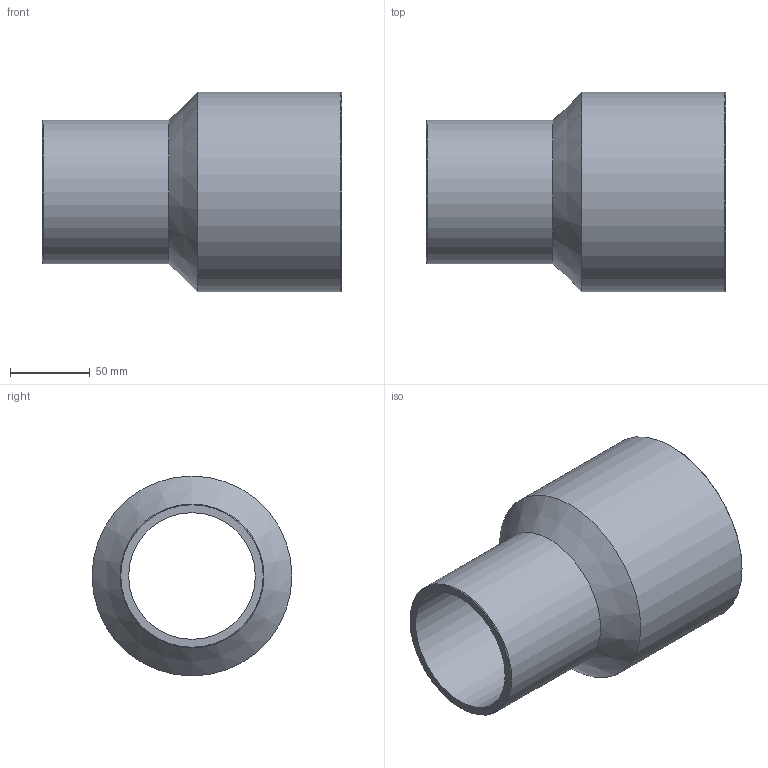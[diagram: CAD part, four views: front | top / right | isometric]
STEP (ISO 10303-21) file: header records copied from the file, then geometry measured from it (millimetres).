
FILE_DESCRIPTION(/* description */ ('Unknown'),/* implementation_level */ '2;1');
FILE_NAME(/* name */ 'RP125090B',/* time_stamp */ '2021-09-17T11:21:53+02:00',/* author */ ('Unknown'),/* organization */ ('Unknown'),/* preprocessor_version */ 'ST-DEVELOPER v16.7',/* originating_system */ 'Solid Edge',/* authorisation */ 'Unknown');
FILE_SCHEMA (('AUTOMOTIVE_DESIGN {1 0 10303 214 3 1 1}'));
Length unit declared in the file: millimetre
Products named in the file (1): RP125090B
Bounding box: 187 x 125 x 125 mm (x, y, z)
Volume: 424171.8 mm3; surface area: 127291.9 mm2
Topology: 1 solids, 1 shells, 10 faces, 19 edges, 11 vertices
Faces by surface type: cylinder 4, cone 4, plane 2
Full cylindrical faces by diameter (mm): 79.2 x1, 90 x1, 110.2 x1, 125 x1
Entity records: 238 total; most frequent: DIRECTION 42, CARTESIAN_POINT 31, AXIS2_PLACEMENT_3D 21, ORIENTED_EDGE 20, EDGE_LOOP 20, FACE_BOUND 20, EDGE_CURVE 10, VERTEX_POINT 10
